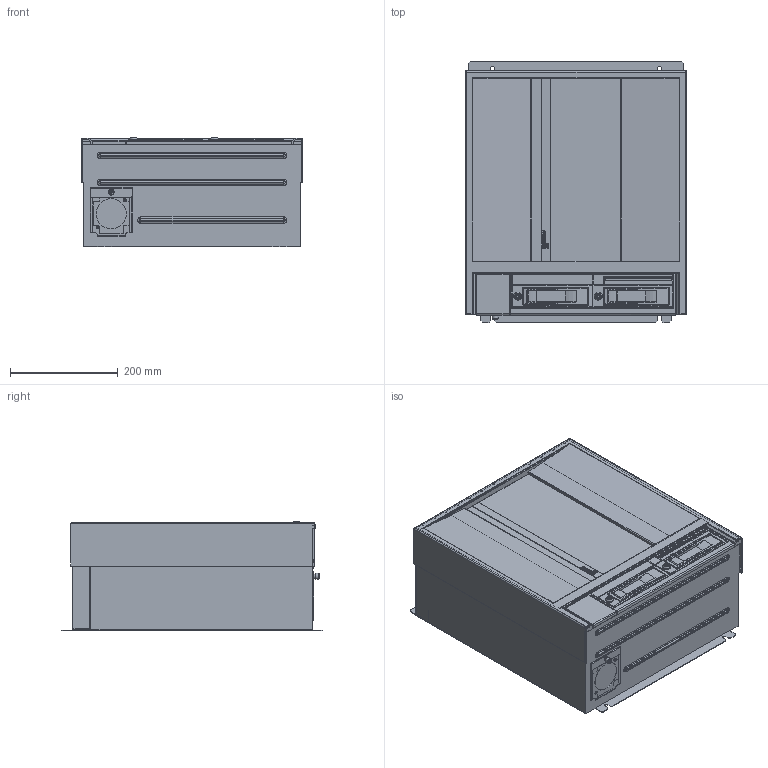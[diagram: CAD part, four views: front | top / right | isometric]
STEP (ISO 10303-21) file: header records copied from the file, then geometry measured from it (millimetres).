
FILE_DESCRIPTION(/* description */ (''),/* implementation_level */ '2;1');
FILE_NAME(/* name */ 'X:\0-inventor\0-3d-Teile\PC-Compo\solids\C66xx\4701_C6675_Z_2022-08-16.stp',/* time_stamp */ '2022-08-16T16:30:47+02:00',/* author */ ('simonejochim'),/* organization */ ('Design-AG'),/* preprocessor_version */ 'ST-DEVELOPER v18.1',/* originating_system */ 'Autodesk Inventor 2021',/* authorisation */ '');
FILE_SCHEMA (('AUTOMOTIVE_DESIGN { 1 0 10303 214 3 1 1 }'));
Products named in the file (1): Bauteil29
Bounding box: 410 x 485 x 203.16 mm (x, y, z)
Volume: 33633682.7 mm3; surface area: 978313.8 mm2
Topology: 1 solids, 10 shells, 3325 faces, 8263 edges, 5379 vertices
Faces by surface type: plane 2759, cylinder 379, bspline 111, torus 47, sphere 16, cone 13
Full cylindrical faces by diameter (mm): 2.459 x2, 3.175 x2, 3.5 x4, 4 x3, 4.3 x2, 5 x2, 5.39 x2, 5.4 x2, 5.56 x1, 7 x2, 7.5 x1, 7.8 x1, 7.9 x1, 9 x2, 10.8 x1, 15 x2, 56 x1
Entity records: 102718 total; most frequent: CARTESIAN_POINT 20184, ORIENTED_EDGE 16476, DIRECTION 15218, EDGE_CURVE 8238, LINE 7092, VECTOR 7092, VERTEX_POINT 5379, AXIS2_PLACEMENT_3D 4063
